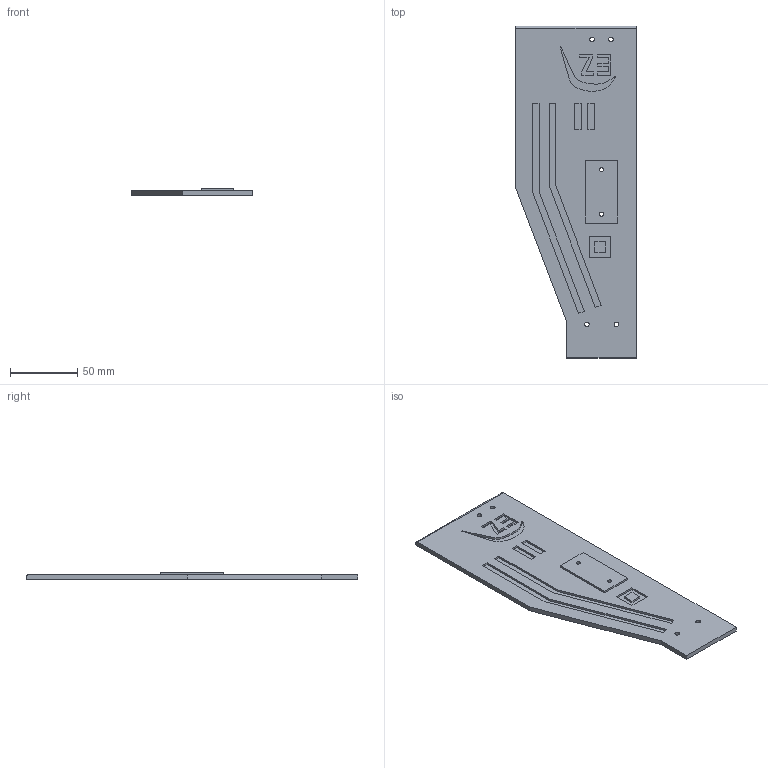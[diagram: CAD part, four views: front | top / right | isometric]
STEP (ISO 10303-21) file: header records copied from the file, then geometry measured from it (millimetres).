
FILE_DESCRIPTION(/* description */ ('STEP AP242 Edition 2','CAx-IF Rec.Pracs.---Representation and Presentation of Product Manufacturing Information (PMI)---4.0---2014-10-13','CAx-IF Rec.Pracs.---3D Tessellated Geometry---0.4---2014-09-14','2;1','CAx-IF Rec.Pracs.---User Defined Attributes---1.5---2016-08-15'),/* implementation_level */ '2;1');
FILE_NAME(/* name */ 'Arm Parts - Arm1',/* time_stamp */ '2026-04-22T00:04:13Z',/* author */ (''),/* organization */ (''),/* preprocessor_version */ 'ST-DEVELOPER v20',/* originating_system */ 'ONSHAPE BY PTC INC, 1.213',/* authorisation */ ' ');
FILE_SCHEMA (('AP242_MANAGED_MODEL_BASED_3D_ENGINEERING_MIM_LF { 1 0 10303 442 3 1 4 }'));
Length unit declared in the file: metre
Products named in the file (1): Arm1
Bounding box: 90 x 247 x 5 mm (x, y, z)
Volume: 65362.8 mm3; surface area: 42902.1 mm2
Topology: 1 solids, 1 shells, 82 faces, 209 edges, 140 vertices
Faces by surface type: plane 73, cylinder 8, bspline 1
Full cylindrical faces by diameter (mm): 3 x2, 3.4 x4, 7 x1
Entity records: 2475 total; most frequent: CARTESIAN_POINT 469, ORIENTED_EDGE 398, DIRECTION 377, EDGE_CURVE 199, LINE 181, VECTOR 181, VERTEX_POINT 138, EDGE_LOOP 113
